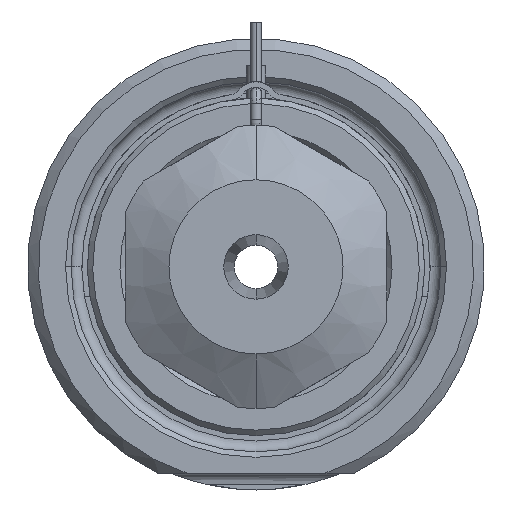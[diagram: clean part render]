
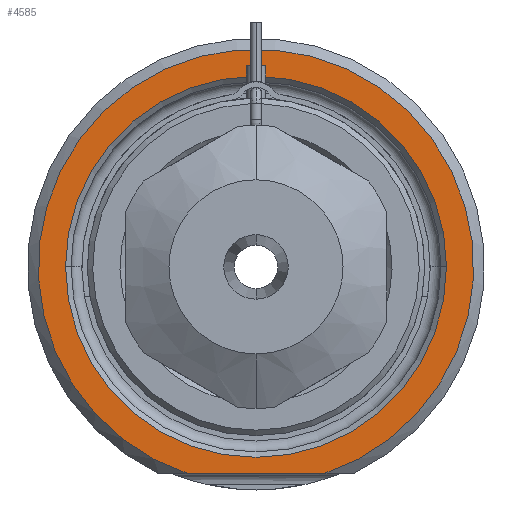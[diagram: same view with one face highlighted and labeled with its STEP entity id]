
A CAD part, front view. The second image highlights one B-rep face of the part: STEP entity #4585.
In plain terms, the highlighted planar face has unit normal (0, -1, 0).
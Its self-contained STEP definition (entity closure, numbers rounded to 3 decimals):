
#1622=CARTESIAN_POINT('',(0.,0.,0.));
#1623=DIRECTION('',(0.,-1.,0.));
#1624=DIRECTION('',(0.312,0.,-0.95));
#1625=AXIS2_PLACEMENT_3D('',#1622,#1623,#1624);
#1646=DIRECTION('',(1.,0.,0.));
#1647=VECTOR('',#1646,12.49);
#1648=CARTESIAN_POINT('',(-6.245,0.,-19.));
#1649=LINE('',#1648,#1647);
#1650=CARTESIAN_POINT('',(0.,0.,0.));
#1651=DIRECTION('',(0.,1.,0.));
#1652=DIRECTION('',(-1.,0.,0.));
#1653=AXIS2_PLACEMENT_3D('',#1650,#1651,#1652);
#1655=CARTESIAN_POINT('',(0.,0.,0.));
#1656=DIRECTION('',(0.,1.,0.));
#1657=DIRECTION('',(1.,0.,0.));
#1658=AXIS2_PLACEMENT_3D('',#1655,#1656,#1657);
#2496=CARTESIAN_POINT('',(-17.5,0.,0.));
#2497=CARTESIAN_POINT('',(17.5,0.,0.));
#2498=VERTEX_POINT('',#2496);
#2499=VERTEX_POINT('',#2497);
#2554=CARTESIAN_POINT('',(-6.245,0.,-19.));
#2555=CARTESIAN_POINT('',(6.245,0.,-19.));
#2556=VERTEX_POINT('',#2554);
#2557=VERTEX_POINT('',#2555);
#4570=CARTESIAN_POINT('',(0.,0.,0.));
#4571=DIRECTION('',(0.,-1.,0.));
#4572=DIRECTION('',(1.,0.,0.));
#4573=AXIS2_PLACEMENT_3D('',#4570,#4571,#4572);
#4574=PLANE('',#4573);
#4575=ORIENTED_EDGE('',*,*,#4502,.F.);
#4576=ORIENTED_EDGE('',*,*,#4562,.F.);
#4577=EDGE_LOOP('',(#4575,#4576));
#4578=FACE_OUTER_BOUND('',#4577,.F.);
#4580=ORIENTED_EDGE('',*,*,#4579,.F.);
#4582=ORIENTED_EDGE('',*,*,#4581,.F.);
#4583=EDGE_LOOP('',(#4580,#4582));
#4584=FACE_BOUND('',#4583,.F.);
#4585=ADVANCED_FACE('',(#4578,#4584),#4574,.T.);
#1626=CIRCLE('',#1625,20.);
#1654=CIRCLE('',#1653,17.5);
#1659=CIRCLE('',#1658,17.5);
#4502=EDGE_CURVE('',#2556,#2557,#1649,.T.);
#4562=EDGE_CURVE('',#2557,#2556,#1626,.T.);
#4579=EDGE_CURVE('',#2498,#2499,#1654,.T.);
#4581=EDGE_CURVE('',#2499,#2498,#1659,.T.);
